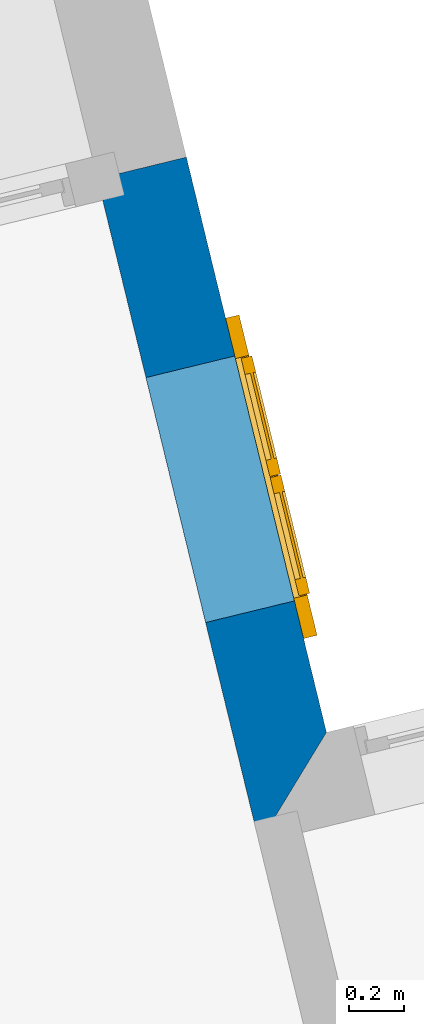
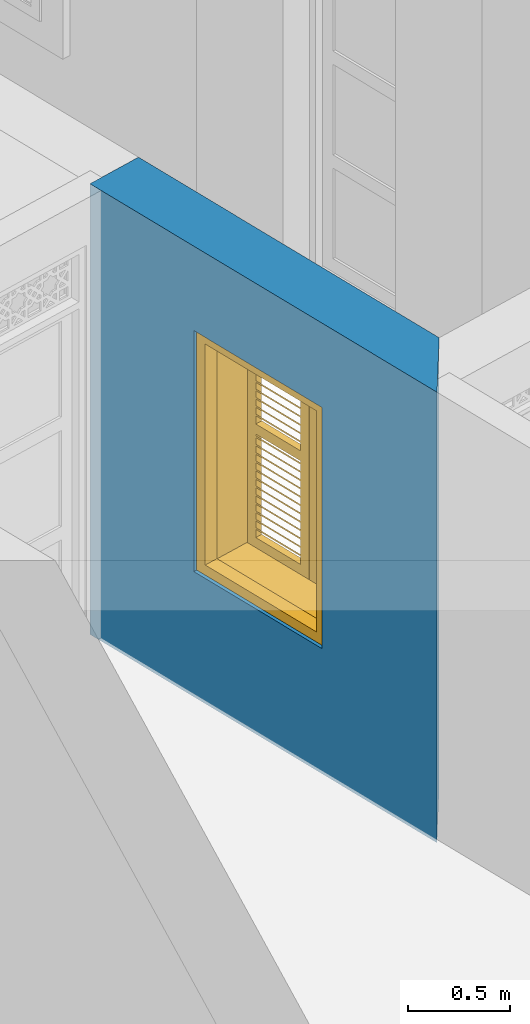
# One storey, part 3 of 15: 1 wall, 1 window, 1 opening.
"""IFC4 building model written with IfcOpenShell, lengths in metres."""

from ifc_helpers import new_model, si_unit, frame, origin, origin_with_axes, place, context, subcontext, project, spatial, polyline, outline, extrude, faceted_brep, source, transform, mapped, material, layer, layer_set, layer_usage, type_object, type_shapes, element, fill, save


model = new_model("IFC4")

# Units and contexts
model_context = context("Model", 3, world=origin_with_axes())
body_context = subcontext(model_context, "Body", "Model", "MODEL_VIEW")
ifc_project = project(units=[si_unit("PLANEANGLEUNIT", "RADIAN"), si_unit("MASSUNIT", "GRAM", prefix="KILO"), si_unit("FORCEUNIT", "NEWTON", prefix="KILO"), si_unit("LENGTHUNIT", "METRE"), si_unit("AREAUNIT", "SQUARE_METRE"), si_unit("VOLUMEUNIT", "CUBIC_METRE")], contexts=[model_context, model_context])

# Site, building, storey
site_placement = place(None, origin_with_axes())
site = spatial("IfcSite", under=ifc_project, at=site_placement, Name="Site plot-4", CompositionType="ELEMENT")
building_placement = place(None, origin_with_axes())
building = spatial("IfcBuilding", under=site, at=building_placement, Name="Building plot-4", CompositionType="ELEMENT")
storey_placement = place(None, origin_with_axes())
storey = spatial("IfcBuildingStorey", under=building, at=storey_placement, Name="plot-4 0", CompositionType="ELEMENT", Elevation=0.0)

# Wall, opening, window
ifc_material = material(Name="Masonry")
ifc_layer = layer(ifc_material, 0.33, ventilated=False)
ifc_layer_set = layer_set([ifc_layer], Name="exterior_0.08_0.25")
ifc_layer_usage = layer_usage(ifc_layer_set, "AXIS2", "POSITIVE", -0.25)
wall_type = type_object("IfcWallType", Name="exterior_0.08_0.25", PredefinedType="SOLIDWALL", material=ifc_layer_set)
wall_placement = place(storey_placement, frame((22.7382206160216, 7.74132985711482, 0.0), z_axis=(0.0, 0.0, 1.0), x_axis=(-0.236608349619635, 0.971605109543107, 0.0)))
wall = element("IfcWall", 1, at=wall_placement, inside=storey, type_object=wall_type, material=ifc_layer_usage, Name="exterior", context=body_context, shape_type="SweptSolid", body=[
    extrude(outline(polyline([(-0.0800000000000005, 0.0799999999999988), (0.250000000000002, -0.250000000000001), (2.38685288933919, -0.25), (2.38685288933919, 0.0799999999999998), (-0.0800000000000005, 0.0799999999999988)])), origin_with_axes(), (0.0, 0.0, 1.0), 2.7),
])
opening_placement = place(wall_placement, frame((0.738426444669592, 0.0, 0.75)))
opening = element("IfcOpeningElement", 2, at=opening_placement, cuts=wall, Name="My Opening", ObjectType="Opening", context=body_context, shape_type="SweptSolid", body=[
    extrude(outline(polyline([(0.0, -0.269999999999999), (0.91, -0.270000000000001), (0.909999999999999, 1.1), (-6.66133814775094e-16, 1.1), (0.0, -0.269999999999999)])), origin_with_axes(), (0.0, 0.0, 1.0), 1.445),
])
window_type = type_object("IfcWindowType", Name="shuttered_shorter", PartitioningType="DOUBLE_PANEL_HORIZONTAL", PredefinedType="NOTDEFINED")
shared_shape = source(origin(), body_context, "Body", "Brep", [
    faceted_brep([(0.393, 0.0, 0.622), (0.074, 0.0, 0.622), (0.074, 0.0, 0.632), (0.393, 0.0, 0.632), (0.074, -0.04, 0.592), (0.393, -0.04, 0.592), (0.393, -0.04, 0.582), (0.074, -0.04, 0.582), (0.517, 0.0, 0.682), (0.836, 0.0, 0.682), (0.836, 0.0, 0.672), (0.517, 0.0, 0.672), (0.517, -0.04, 0.642), (0.836, -0.04, 0.642), (0.836, -0.04, 0.632), (0.517, -0.04, 0.632), (0.517, 0.0, 0.632), (0.836, 0.0, 0.632), (0.836, 0.0, 0.622), (0.517, 0.0, 0.622), (0.517, -0.04, 0.592), (0.836, -0.04, 0.592), (0.836, -0.04, 0.582), (0.517, -0.04, 0.582), (0.517, 0.0, 0.232), (0.836, 0.0, 0.232), (0.836, 0.0, 0.222), (0.517, 0.0, 0.222), (0.517, -0.04, 0.192), (0.836, -0.04, 0.192), (0.836, -0.04, 0.182), (0.517, -0.04, 0.182), (0.517, 0.0, 0.532), (0.836, 0.0, 0.532), (0.836, 0.0, 0.522), (0.517, 0.0, 0.522), (0.517, -0.04, 0.492), (0.836, -0.04, 0.492), (0.836, -0.04, 0.482), (0.517, -0.04, 0.482), (0.517, 0.0, 0.482), (0.836, 0.0, 0.482), (0.836, 0.0, 0.472), (0.517, 0.0, 0.472), (0.517, -0.04, 0.442), (0.836, -0.04, 0.442), (0.836, -0.04, 0.432), (0.517, -0.04, 0.432), (0.517, 0.0, 0.582), (0.836, 0.0, 0.582), (0.836, 0.0, 0.572), (0.517, 0.0, 0.572), (0.517, -0.04, 0.542), (0.836, -0.04, 0.542), (0.836, -0.04, 0.532), (0.517, -0.04, 0.532), (0.517, 0.0, 0.182), (0.836, 0.0, 0.182), (0.836, 0.0, 0.172), (0.517, 0.0, 0.172), (0.517, -0.04, 0.142), (0.836, -0.04, 0.142), (0.836, -0.04, 0.132), (0.517, -0.04, 0.132), (0.517, 0.0, 0.382), (0.836, 0.0, 0.382), (0.836, 0.0, 0.372), (0.517, 0.0, 0.372), (0.517, -0.04, 0.342), (0.836, -0.04, 0.342), (0.836, -0.04, 0.332), (0.517, -0.04, 0.332), (0.517, 0.0, 0.432), (0.836, 0.0, 0.432), (0.836, 0.0, 0.422), (0.517, 0.0, 0.422), (0.517, -0.04, 0.392), (0.836, -0.04, 0.392), (0.836, -0.04, 0.382), (0.517, -0.04, 0.382), (0.517, 0.0, 0.132), (0.836, 0.0, 0.132), (0.836, 0.0, 0.122), (0.517, 0.0, 0.122), (0.517, -0.04, 0.092), (0.836, -0.04, 0.092), (0.836, -0.04, 0.082), (0.517, -0.04, 0.082), (0.517, 0.0, 0.282), (0.836, 0.0, 0.282), (0.836, 0.0, 0.272), (0.517, 0.0, 0.272), (0.517, -0.04, 0.242), (0.836, -0.04, 0.242), (0.836, -0.04, 0.232), (0.517, -0.04, 0.232), (0.517, 0.0, 0.332), (0.836, 0.0, 0.332), (0.836, 0.0, 0.322), (0.517, 0.0, 0.322), (0.517, -0.04, 0.292), (0.836, -0.04, 0.292), (0.836, -0.04, 0.282), (0.517, -0.04, 0.282), (0.517, 0.0, 1.362667), (0.836, 0.0, 1.362667), (0.836, 0.0, 1.352667), (0.517, 0.0, 1.352667), (0.517, -0.04, 1.322667), (0.836, -0.04, 1.322667), (0.836, -0.04, 1.312667), (0.517, -0.04, 1.312667), (0.517, 0.0, 1.312667), (0.836, 0.0, 1.312667), (0.836, 0.0, 1.302667), (0.517, 0.0, 1.302667), (0.517, -0.04, 1.272667), (0.836, -0.04, 1.272667), (0.836, -0.04, 1.262667), (0.517, -0.04, 1.262667), (0.517, 0.0, 0.912667), (0.836, 0.0, 0.912667), (0.836, 0.0, 0.902667), (0.517, 0.0, 0.902667), (0.517, -0.04, 0.872667), (0.836, -0.04, 0.872667), (0.836, -0.04, 0.862667), (0.517, -0.04, 0.862667), (0.517, 0.0, 1.212667), (0.836, 0.0, 1.212667), (0.836, 0.0, 1.202667), (0.517, 0.0, 1.202667), (0.517, -0.04, 1.172667), (0.836, -0.04, 1.172667), (0.836, -0.04, 1.162667), (0.517, -0.04, 1.162667), (0.517, 0.0, 1.162667), (0.836, 0.0, 1.162667), (0.836, 0.0, 1.152667), (0.517, 0.0, 1.152667), (0.517, -0.04, 1.122667), (0.836, -0.04, 1.122667), (0.836, -0.04, 1.112667), (0.517, -0.04, 1.112667), (0.517, 0.0, 1.262667), (0.836, 0.0, 1.262667), (0.836, 0.0, 1.252667), (0.517, 0.0, 1.252667), (0.517, -0.04, 1.222667), (0.836, -0.04, 1.222667), (0.836, -0.04, 1.212667), (0.517, -0.04, 1.212667), (0.517, 0.0, 0.862667), (0.836, 0.0, 0.862667), (0.836, 0.0, 0.852667), (0.517, 0.0, 0.852667), (0.517, -0.04, 0.822667), (0.836, -0.04, 0.822667), (0.836, -0.04, 0.812667), (0.517, -0.04, 0.812667), (0.517, 0.0, 1.062667), (0.836, 0.0, 1.062667), (0.836, 0.0, 1.052667), (0.517, 0.0, 1.052667), (0.517, -0.04, 1.022667), (0.836, -0.04, 1.022667), (0.836, -0.04, 1.012667), (0.517, -0.04, 1.012667), (0.517, 0.0, 1.112667), (0.836, 0.0, 1.112667), (0.836, 0.0, 1.102667), (0.517, 0.0, 1.102667), (0.517, -0.04, 1.072667), (0.836, -0.04, 1.072667), (0.836, -0.04, 1.062667), (0.517, -0.04, 1.062667), (0.517, 0.0, 0.812667), (0.836, 0.0, 0.812667), (0.836, 0.0, 0.802667), (0.517, 0.0, 0.802667), (0.517, -0.04, 0.772667), (0.836, -0.04, 0.772667), (0.836, -0.04, 0.762667), (0.517, -0.04, 0.762667), (0.517, 0.0, 0.962667), (0.836, 0.0, 0.962667), (0.836, 0.0, 0.952667), (0.517, 0.0, 0.952667), (0.517, -0.04, 0.922667), (0.836, -0.04, 0.922667), (0.836, -0.04, 0.912667), (0.517, -0.04, 0.912667), (0.517, 0.0, 1.012667), (0.836, 0.0, 1.012667), (0.836, 0.0, 1.002667), (0.517, 0.0, 1.002667), (0.517, -0.04, 0.972667), (0.836, -0.04, 0.972667), (0.836, -0.04, 0.962667), (0.517, -0.04, 0.962667), (0.074, 0.0, 0.682), (0.393, 0.0, 0.682), (0.393, 0.0, 0.672), (0.074, 0.0, 0.672), (0.074, -0.04, 0.642), (0.393, -0.04, 0.642), (0.393, -0.04, 0.632), (0.074, -0.04, 0.632), (0.074, 0.0, 0.232), (0.393, 0.0, 0.232), (0.393, 0.0, 0.222), (0.074, 0.0, 0.222), (0.074, -0.04, 0.192), (0.393, -0.04, 0.192), (0.393, -0.04, 0.182), (0.074, -0.04, 0.182), (0.074, 0.0, 0.532), (0.393, 0.0, 0.532), (0.393, 0.0, 0.522), (0.074, 0.0, 0.522), (0.074, -0.04, 0.492), (0.393, -0.04, 0.492), (0.393, -0.04, 0.482), (0.074, -0.04, 0.482), (0.074, 0.0, 0.482), (0.393, 0.0, 0.482), (0.393, 0.0, 0.472), (0.074, 0.0, 0.472), (0.074, -0.04, 0.442), (0.393, -0.04, 0.442), (0.393, -0.04, 0.432), (0.074, -0.04, 0.432), (0.074, 0.0, 0.582), (0.393, 0.0, 0.582), (0.393, 0.0, 0.572), (0.074, 0.0, 0.572), (0.074, -0.04, 0.542), (0.393, -0.04, 0.542), (0.393, -0.04, 0.532), (0.074, -0.04, 0.532), (0.074, 0.0, 0.182), (0.393, 0.0, 0.182), (0.393, 0.0, 0.172), (0.074, 0.0, 0.172), (0.074, -0.04, 0.142), (0.393, -0.04, 0.142), (0.393, -0.04, 0.132), (0.074, -0.04, 0.132), (0.074, 0.0, 0.382), (0.393, 0.0, 0.382), (0.393, 0.0, 0.372), (0.074, 0.0, 0.372), (0.074, -0.04, 0.342), (0.393, -0.04, 0.342), (0.393, -0.04, 0.332), (0.074, -0.04, 0.332), (0.074, 0.0, 0.432), (0.393, 0.0, 0.432), (0.393, 0.0, 0.422), (0.074, 0.0, 0.422), (0.074, -0.04, 0.392), (0.393, -0.04, 0.392), (0.393, -0.04, 0.382), (0.074, -0.04, 0.382), (0.074, 0.0, 0.132), (0.393, 0.0, 0.132), (0.393, 0.0, 0.122), (0.074, 0.0, 0.122), (0.074, -0.04, 0.092), (0.393, -0.04, 0.092), (0.393, -0.04, 0.082), (0.074, -0.04, 0.082), (0.074, 0.0, 0.282), (0.393, 0.0, 0.282), (0.393, 0.0, 0.272), (0.074, 0.0, 0.272), (0.074, -0.04, 0.242), (0.393, -0.04, 0.242), (0.393, -0.04, 0.232), (0.074, -0.04, 0.232), (0.074, 0.0, 0.332), (0.393, 0.0, 0.332), (0.393, 0.0, 0.322), (0.074, 0.0, 0.322), (0.074, -0.04, 0.292), (0.393, -0.04, 0.292), (0.393, -0.04, 0.282), (0.074, -0.04, 0.282), (0.074, 0.0, 1.362667), (0.393, 0.0, 1.362667), (0.393, 0.0, 1.352667), (0.074, 0.0, 1.352667), (0.074, -0.04, 1.322667), (0.393, -0.04, 1.322667), (0.393, -0.04, 1.312667), (0.074, -0.04, 1.312667), (0.074, 0.0, 1.312667), (0.393, 0.0, 1.312667), (0.393, 0.0, 1.302667), (0.074, 0.0, 1.302667), (0.074, -0.04, 1.272667), (0.393, -0.04, 1.272667), (0.393, -0.04, 1.262667), (0.074, -0.04, 1.262667), (0.074, 0.0, 0.912667), (0.393, 0.0, 0.912667), (0.393, 0.0, 0.902667), (0.074, 0.0, 0.902667), (0.074, -0.04, 0.872667), (0.393, -0.04, 0.872667), (0.393, -0.04, 0.862667), (0.074, -0.04, 0.862667), (0.074, 0.0, 1.212667), (0.393, 0.0, 1.212667), (0.393, 0.0, 1.202667), (0.074, 0.0, 1.202667), (0.074, -0.04, 1.172667), (0.393, -0.04, 1.172667), (0.393, -0.04, 1.162667), (0.074, -0.04, 1.162667), (0.074, 0.0, 1.162667), (0.393, 0.0, 1.162667), (0.393, 0.0, 1.152667), (0.074, 0.0, 1.152667), (0.074, -0.04, 1.122667), (0.393, -0.04, 1.122667), (0.393, -0.04, 1.112667), (0.074, -0.04, 1.112667), (0.074, 0.0, 1.262667), (0.393, 0.0, 1.262667), (0.393, 0.0, 1.252667), (0.074, 0.0, 1.252667), (0.074, -0.04, 1.222667), (0.393, -0.04, 1.222667), (0.393, -0.04, 1.212667), (0.074, -0.04, 1.212667), (0.074, 0.0, 0.862667), (0.393, 0.0, 0.862667), (0.393, 0.0, 0.852667), (0.074, 0.0, 0.852667), (0.074, -0.04, 0.822667), (0.393, -0.04, 0.822667), (0.393, -0.04, 0.812667), (0.074, -0.04, 0.812667), (0.074, 0.0, 1.062667), (0.393, 0.0, 1.062667), (0.393, 0.0, 1.052667), (0.074, 0.0, 1.052667), (0.074, -0.04, 1.022667), (0.393, -0.04, 1.022667), (0.393, -0.04, 1.012667), (0.074, -0.04, 1.012667), (0.074, 0.0, 1.112667), (0.393, 0.0, 1.112667), (0.393, 0.0, 1.102667), (0.074, 0.0, 1.102667), (0.074, -0.04, 1.072667), (0.393, -0.04, 1.072667), (0.393, -0.04, 1.062667), (0.074, -0.04, 1.062667), (0.074, 0.0, 0.812667), (0.393, 0.0, 0.812667), (0.393, 0.0, 0.802667), (0.074, 0.0, 0.802667), (0.074, -0.04, 0.772667), (0.393, -0.04, 0.772667), (0.393, -0.04, 0.762667), (0.074, -0.04, 0.762667), (0.074, 0.0, 0.962667), (0.393, 0.0, 0.962667), (0.393, 0.0, 0.952667), (0.074, 0.0, 0.952667), (0.074, -0.04, 0.922667), (0.393, -0.04, 0.922667), (0.393, -0.04, 0.912667), (0.074, -0.04, 0.912667), (0.074, 0.0, 1.012667), (0.393, 0.0, 1.012667), (0.393, 0.0, 1.002667), (0.074, 0.0, 1.002667), (0.074, -0.04, 0.972667), (0.393, -0.04, 0.972667), (0.393, -0.04, 0.962667), (0.074, -0.04, 0.962667), (0.517, -0.04, 0.072), (0.457, -0.04, 0.012), (0.896, -0.04, 0.012), (0.836, -0.04, 0.072), (0.457, -0.04, 0.692667), (0.517, -0.04, 0.692667), (0.457, 0.0, 0.012), (0.896, 0.0, 0.012), (0.836, -0.04, 0.692667), (0.896, -0.04, 0.692667), (0.836, 0.0, 0.072), (0.517, 0.0, 0.072), (0.457, 0.0, 0.692667), (0.517, 0.0, 0.692667), (0.517, -0.04, 0.752666), (0.457, -0.04, 0.752666), (0.896, 0.0, 0.692667), (0.836, 0.0, 0.692667), (0.836, -0.04, 0.752666), (0.896, -0.04, 0.752666), (0.457, 0.0, 0.752666), (0.457, -0.04, 1.433333), (0.517, -0.04, 1.373333), (0.896, 0.0, 0.752666), (0.836, -0.04, 1.373333), (0.896, -0.04, 1.433333), (0.457, 0.0, 1.433333), (0.517, 0.0, 0.752666), (0.836, 0.0, 0.752666), (0.517, 0.0, 1.373333), (0.896, 0.0, 1.433333), (0.836, 0.0, 1.373333), (0.074, -0.04, 0.072), (0.014, -0.04, 0.012), (0.453, -0.04, 0.012), (0.393, -0.04, 0.072), (0.014, -0.04, 0.692667), (0.074, -0.04, 0.692667), (0.014, 0.0, 0.012), (0.453, 0.0, 0.012), (0.393, -0.04, 0.692667), (0.453, -0.04, 0.692667), (0.393, 0.0, 0.072), (0.074, 0.0, 0.072), (0.014, 0.0, 0.692667), (0.074, 0.0, 0.692667), (0.074, -0.04, 0.752666), (0.014, -0.04, 0.752666), (0.453, 0.0, 0.692667), (0.393, 0.0, 0.692667), (0.393, -0.04, 0.752666), (0.453, -0.04, 0.752666), (0.014, 0.0, 0.752666), (0.014, -0.04, 1.433333), (0.074, -0.04, 1.373333), (0.453, 0.0, 0.752666), (0.393, -0.04, 1.373333), (0.453, -0.04, 1.433333), (0.014, 0.0, 1.433333), (0.074, 0.0, 0.752666), (0.393, 0.0, 0.752666), (0.074, 0.0, 1.373333), (0.453, 0.0, 1.433333), (0.393, 0.0, 1.373333), (0.0, 0.33, 1.445), (0.91, 0.33, 1.445), (0.85, 0.33, 1.385), (0.06, 0.33, 1.385), (0.91, 0.25, 1.445), (0.0, 0.25, 1.445), (0.91, 0.25, 1.445), (0.85, 0.33, 0.06), (0.91, 0.33, 0.0), (0.85, 0.25, 1.385), (0.06, 0.25, 1.385), (0.0, 0.33, 0.0), (0.06, 0.33, 0.06), (0.0, 0.25, 0.0), (0.91, 0.25, 0.0), (0.85, 0.25, 0.06), (0.06, 0.25, 0.06), (1.05, 0.25, 1.585), (-0.14, 0.25, 1.585), (-0.14, -0.03, 1.585), (1.05, -0.03, 1.585), (0.9, -0.03, 1.435), (0.01, -0.03, 1.435), (0.01, 0.25, 1.435), (0.9, 0.25, 1.435), (0.9, 0.25, 0.01), (0.9, -0.03, 0.01), (1.05, -0.03, -0.14), (1.05, 0.25, -0.14), (0.01, -0.03, 0.01), (0.01, 0.25, 0.01), (-0.14, -0.03, -0.14), (-0.14, 0.25, -0.14)], [[[0, 1, 2, 3]], [[4, 5, 3, 2]], [[5, 6, 0, 3]], [[1, 0, 6, 7]], [[2, 1, 7, 4]], [[5, 4, 7, 6]], [[8, 9, 10, 11]], [[12, 13, 9, 8]], [[13, 14, 10, 9]], [[14, 15, 11, 10]], [[15, 12, 8, 11]], [[13, 12, 15, 14]], [[16, 17, 18, 19]], [[20, 21, 17, 16]], [[21, 22, 18, 17]], [[22, 23, 19, 18]], [[23, 20, 16, 19]], [[21, 20, 23, 22]], [[24, 25, 26, 27]], [[28, 29, 25, 24]], [[29, 30, 26, 25]], [[30, 31, 27, 26]], [[31, 28, 24, 27]], [[29, 28, 31, 30]], [[32, 33, 34, 35]], [[36, 37, 33, 32]], [[37, 38, 34, 33]], [[38, 39, 35, 34]], [[39, 36, 32, 35]], [[37, 36, 39, 38]], [[40, 41, 42, 43]], [[44, 45, 41, 40]], [[45, 46, 42, 41]], [[46, 47, 43, 42]], [[47, 44, 40, 43]], [[45, 44, 47, 46]], [[48, 49, 50, 51]], [[52, 53, 49, 48]], [[53, 54, 50, 49]], [[54, 55, 51, 50]], [[55, 52, 48, 51]], [[53, 52, 55, 54]], [[56, 57, 58, 59]], [[60, 61, 57, 56]], [[61, 62, 58, 57]], [[62, 63, 59, 58]], [[63, 60, 56, 59]], [[61, 60, 63, 62]], [[64, 65, 66, 67]], [[68, 69, 65, 64]], [[69, 70, 66, 65]], [[70, 71, 67, 66]], [[71, 68, 64, 67]], [[69, 68, 71, 70]], [[72, 73, 74, 75]], [[76, 77, 73, 72]], [[77, 78, 74, 73]], [[78, 79, 75, 74]], [[79, 76, 72, 75]], [[77, 76, 79, 78]], [[80, 81, 82, 83]], [[84, 85, 81, 80]], [[85, 86, 82, 81]], [[86, 87, 83, 82]], [[87, 84, 80, 83]], [[85, 84, 87, 86]], [[88, 89, 90, 91]], [[92, 93, 89, 88]], [[93, 94, 90, 89]], [[94, 95, 91, 90]], [[95, 92, 88, 91]], [[93, 92, 95, 94]], [[96, 97, 98, 99]], [[100, 101, 97, 96]], [[101, 102, 98, 97]], [[102, 103, 99, 98]], [[103, 100, 96, 99]], [[101, 100, 103, 102]], [[104, 105, 106, 107]], [[108, 109, 105, 104]], [[109, 110, 106, 105]], [[110, 111, 107, 106]], [[111, 108, 104, 107]], [[109, 108, 111, 110]], [[112, 113, 114, 115]], [[116, 117, 113, 112]], [[117, 118, 114, 113]], [[118, 119, 115, 114]], [[119, 116, 112, 115]], [[117, 116, 119, 118]], [[120, 121, 122, 123]], [[124, 125, 121, 120]], [[125, 126, 122, 121]], [[126, 127, 123, 122]], [[127, 124, 120, 123]], [[125, 124, 127, 126]], [[128, 129, 130, 131]], [[132, 133, 129, 128]], [[133, 134, 130, 129]], [[134, 135, 131, 130]], [[135, 132, 128, 131]], [[133, 132, 135, 134]], [[136, 137, 138, 139]], [[140, 141, 137, 136]], [[141, 142, 138, 137]], [[142, 143, 139, 138]], [[139, 143, 140, 136]], [[141, 140, 143, 142]], [[144, 145, 146, 147]], [[148, 149, 145, 144]], [[149, 150, 146, 145]], [[150, 151, 147, 146]], [[151, 148, 144, 147]], [[149, 148, 151, 150]], [[152, 153, 154, 155]], [[156, 157, 153, 152]], [[157, 158, 154, 153]], [[158, 159, 155, 154]], [[159, 156, 152, 155]], [[157, 156, 159, 158]], [[160, 161, 162, 163]], [[164, 165, 161, 160]], [[165, 166, 162, 161]], [[166, 167, 163, 162]], [[167, 164, 160, 163]], [[165, 164, 167, 166]], [[168, 169, 170, 171]], [[172, 173, 169, 168]], [[173, 174, 170, 169]], [[174, 175, 171, 170]], [[175, 172, 168, 171]], [[173, 172, 175, 174]], [[176, 177, 178, 179]], [[180, 181, 177, 176]], [[181, 182, 178, 177]], [[182, 183, 179, 178]], [[183, 180, 176, 179]], [[181, 180, 183, 182]], [[184, 185, 186, 187]], [[188, 189, 185, 184]], [[189, 190, 186, 185]], [[190, 191, 187, 186]], [[191, 188, 184, 187]], [[189, 188, 191, 190]], [[192, 193, 194, 195]], [[196, 197, 193, 192]], [[197, 198, 194, 193]], [[198, 199, 195, 194]], [[199, 196, 192, 195]], [[197, 196, 199, 198]], [[200, 201, 202, 203]], [[204, 205, 201, 200]], [[205, 206, 202, 201]], [[206, 207, 203, 202]], [[207, 204, 200, 203]], [[205, 204, 207, 206]], [[208, 209, 210, 211]], [[212, 213, 209, 208]], [[213, 214, 210, 209]], [[214, 215, 211, 210]], [[215, 212, 208, 211]], [[213, 212, 215, 214]], [[216, 217, 218, 219]], [[220, 221, 217, 216]], [[221, 222, 218, 217]], [[222, 223, 219, 218]], [[223, 220, 216, 219]], [[221, 220, 223, 222]], [[224, 225, 226, 227]], [[228, 229, 225, 224]], [[229, 230, 226, 225]], [[230, 231, 227, 226]], [[231, 228, 224, 227]], [[229, 228, 231, 230]], [[232, 233, 234, 235]], [[236, 237, 233, 232]], [[237, 238, 234, 233]], [[238, 239, 235, 234]], [[239, 236, 232, 235]], [[237, 236, 239, 238]], [[240, 241, 242, 243]], [[244, 245, 241, 240]], [[245, 246, 242, 241]], [[246, 247, 243, 242]], [[247, 244, 240, 243]], [[245, 244, 247, 246]], [[248, 249, 250, 251]], [[252, 253, 249, 248]], [[253, 254, 250, 249]], [[254, 255, 251, 250]], [[255, 252, 248, 251]], [[253, 252, 255, 254]], [[256, 257, 258, 259]], [[260, 261, 257, 256]], [[261, 262, 258, 257]], [[262, 263, 259, 258]], [[263, 260, 256, 259]], [[261, 260, 263, 262]], [[264, 265, 266, 267]], [[268, 269, 265, 264]], [[269, 270, 266, 265]], [[270, 271, 267, 266]], [[271, 268, 264, 267]], [[269, 268, 271, 270]], [[272, 273, 274, 275]], [[276, 277, 273, 272]], [[277, 278, 274, 273]], [[278, 279, 275, 274]], [[279, 276, 272, 275]], [[277, 276, 279, 278]], [[280, 281, 282, 283]], [[284, 285, 281, 280]], [[285, 286, 282, 281]], [[286, 287, 283, 282]], [[287, 284, 280, 283]], [[285, 284, 287, 286]], [[288, 289, 290, 291]], [[292, 293, 289, 288]], [[293, 294, 290, 289]], [[294, 295, 291, 290]], [[295, 292, 288, 291]], [[293, 292, 295, 294]], [[296, 297, 298, 299]], [[300, 301, 297, 296]], [[301, 302, 298, 297]], [[302, 303, 299, 298]], [[303, 300, 296, 299]], [[301, 300, 303, 302]], [[304, 305, 306, 307]], [[308, 309, 305, 304]], [[309, 310, 306, 305]], [[310, 311, 307, 306]], [[311, 308, 304, 307]], [[309, 308, 311, 310]], [[312, 313, 314, 315]], [[316, 317, 313, 312]], [[317, 318, 314, 313]], [[318, 319, 315, 314]], [[319, 316, 312, 315]], [[317, 316, 319, 318]], [[320, 321, 322, 323]], [[324, 325, 321, 320]], [[325, 326, 322, 321]], [[326, 327, 323, 322]], [[327, 324, 320, 323]], [[325, 324, 327, 326]], [[328, 329, 330, 331]], [[332, 333, 329, 328]], [[333, 334, 330, 329]], [[334, 335, 331, 330]], [[335, 332, 328, 331]], [[333, 332, 335, 334]], [[336, 337, 338, 339]], [[340, 341, 337, 336]], [[341, 342, 338, 337]], [[342, 343, 339, 338]], [[343, 340, 336, 339]], [[341, 340, 343, 342]], [[344, 345, 346, 347]], [[348, 349, 345, 344]], [[349, 350, 346, 345]], [[350, 351, 347, 346]], [[351, 348, 344, 347]], [[349, 348, 351, 350]], [[352, 353, 354, 355]], [[356, 357, 353, 352]], [[357, 358, 354, 353]], [[358, 359, 355, 354]], [[359, 356, 352, 355]], [[357, 356, 359, 358]], [[360, 361, 362, 363]], [[364, 365, 361, 360]], [[365, 366, 362, 361]], [[366, 367, 363, 362]], [[367, 364, 360, 363]], [[365, 364, 367, 366]], [[368, 369, 370, 371]], [[372, 373, 369, 368]], [[373, 374, 370, 369]], [[374, 375, 371, 370]], [[375, 372, 368, 371]], [[373, 372, 375, 374]], [[376, 377, 378, 379]], [[380, 381, 377, 376]], [[381, 382, 378, 377]], [[382, 383, 379, 378]], [[383, 380, 376, 379]], [[381, 380, 383, 382]], [[384, 385, 386, 387]], [[388, 385, 384, 389]], [[390, 391, 386, 385]], [[392, 387, 386, 393]], [[384, 387, 394, 395]], [[390, 385, 388, 396]], [[389, 384, 395, 397]], [[389, 398, 399, 388]], [[390, 395, 394, 391]], [[400, 393, 386, 391]], [[387, 392, 401, 394]], [[402, 392, 393, 403]], [[396, 388, 399, 404]], [[390, 396, 397, 395]], [[392, 389, 397, 401]], [[398, 389, 392, 402]], [[405, 399, 398, 406]], [[394, 401, 400, 391]], [[407, 403, 393, 400]], [[408, 402, 403, 409]], [[404, 399, 405, 410]], [[411, 397, 396, 404]], [[397, 411, 412, 401]], [[398, 402, 412, 411]], [[406, 398, 411, 413]], [[405, 406, 408, 409]], [[401, 412, 407, 400]], [[414, 409, 403, 407]], [[402, 408, 415, 412]], [[405, 409, 414, 410]], [[404, 410, 413, 411]], [[408, 406, 413, 415]], [[412, 415, 414, 407]], [[413, 410, 414, 415]], [[416, 417, 418, 419]], [[420, 417, 416, 421]], [[422, 423, 418, 417]], [[424, 419, 418, 425]], [[416, 419, 426, 427]], [[422, 417, 420, 428]], [[421, 416, 427, 429]], [[421, 430, 431, 420]], [[422, 427, 426, 423]], [[432, 425, 418, 423]], [[419, 424, 433, 426]], [[434, 424, 425, 435]], [[428, 420, 431, 436]], [[422, 428, 429, 427]], [[424, 421, 429, 433]], [[430, 421, 424, 434]], [[437, 431, 430, 438]], [[426, 433, 432, 423]], [[439, 435, 425, 432]], [[440, 434, 435, 441]], [[436, 431, 437, 442]], [[443, 429, 428, 436]], [[429, 443, 444, 433]], [[430, 434, 444, 443]], [[438, 430, 443, 445]], [[437, 438, 440, 441]], [[433, 444, 439, 432]], [[446, 441, 435, 439]], [[434, 440, 447, 444]], [[437, 441, 446, 442]], [[436, 442, 445, 443]], [[440, 438, 445, 447]], [[444, 447, 446, 439]], [[445, 442, 446, 447]], [[448, 449, 450, 451]], [[452, 449, 448]], [[448, 453, 454]], [[448, 454, 452]], [[455, 450, 449, 456]], [[451, 450, 457, 458]], [[459, 448, 451, 460]], [[448, 459, 461, 453]], [[454, 453, 458, 457]], [[462, 452, 454]], [[454, 457, 463]], [[454, 463, 462]], [[456, 449, 452, 462]], [[450, 455, 463, 457]], [[456, 459, 460, 455]], [[460, 451, 458, 464]], [[459, 456, 462, 461]], [[464, 458, 453, 461]], [[461, 462, 463, 464]], [[455, 460, 464, 463]], [[465, 466, 467, 468]], [[469, 470, 471, 472]], [[473, 474, 469, 472]], [[465, 468, 475, 476]], [[470, 477, 478, 471]], [[474, 473, 478, 477]], [[474, 477, 479, 475]], [[470, 467, 479, 477]], [[470, 469, 468, 467]], [[474, 475, 468, 469]], [[471, 478, 480, 466]], [[473, 472, 465, 476]], [[473, 476, 480, 478]], [[466, 465, 472, 471]], [[480, 476, 475, 479]], [[480, 479, 467, 466]]]),
])
type_shapes(window_type, [shared_shape])
window_placement = place(storey_placement, frame((22.8258361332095, 8.52267301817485, 0.75), z_axis=(0.0, 0.0, 1.0), x_axis=(-0.215313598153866, 0.884160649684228, 0.0)))
window = element("IfcWindow", 3, at=window_placement, inside=storey, type_object=window_type, Name="bedroom sahn window", OverallHeight=1.445, OverallWidth=0.91, context=body_context, shape_type="MappedRepresentation", body=[
    mapped(shared_shape, transform((0.0, 0.0, 0.0), scale=1.0)),
])
fill(opening, window)

save(model, "model.ifc")
